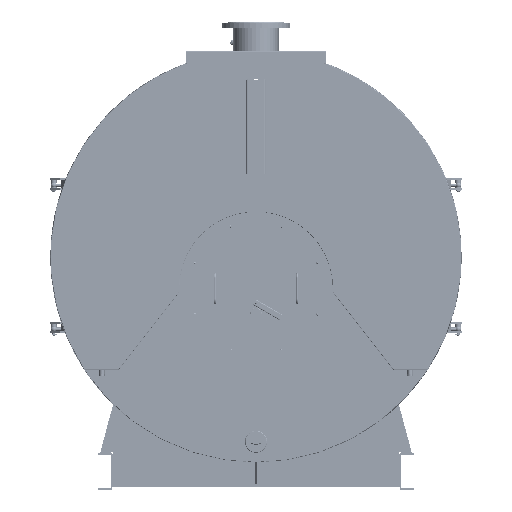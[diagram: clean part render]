
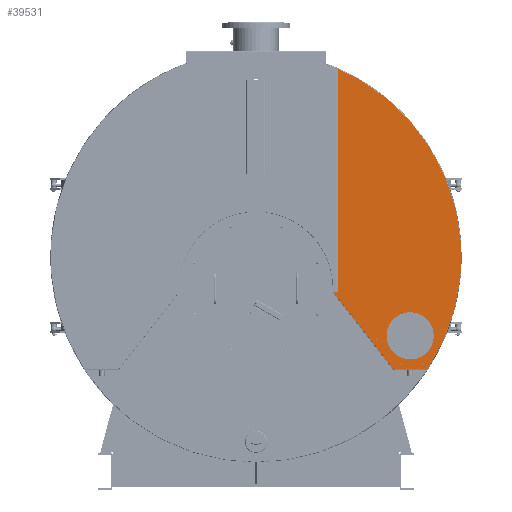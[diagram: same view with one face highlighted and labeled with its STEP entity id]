
A CAD part, left-side view. The second image highlights one B-rep face of the part: STEP entity #39531.
In plain terms, the highlighted planar face has unit normal (-1, 0, 0).
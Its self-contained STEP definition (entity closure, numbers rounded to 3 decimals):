
#39531=ADVANCED_FACE('',(#115013,#115015,#115017,#115019,#115021,#115023,#115025,
#115027,#115029,#115031,#115033,#115035,#115037,#115039,#115041,#115043,#115045),
#115047,.F.);
#115013=FACE_BOUND('',#115014,.T.);
#115014=EDGE_LOOP('',(#134675,#134676,#134677,#134678,#134679));
#115015=FACE_BOUND('',#115016,.T.);
#115016=EDGE_LOOP('',(#134680));
#115017=FACE_BOUND('',#115018,.T.);
#115018=EDGE_LOOP('',(#134681));
#115019=FACE_BOUND('',#115020,.T.);
#115020=EDGE_LOOP('',(#134682));
#115021=FACE_BOUND('',#115022,.T.);
#115022=EDGE_LOOP('',(#134683));
#115023=FACE_BOUND('',#115024,.T.);
#115024=EDGE_LOOP('',(#134684));
#115025=FACE_BOUND('',#115026,.T.);
#115026=EDGE_LOOP('',(#134685));
#115027=FACE_BOUND('',#115028,.T.);
#115028=EDGE_LOOP('',(#134686));
#115029=FACE_BOUND('',#115030,.T.);
#115030=EDGE_LOOP('',(#134687));
#115031=FACE_BOUND('',#115032,.T.);
#115032=EDGE_LOOP('',(#134688));
#115033=FACE_BOUND('',#115034,.T.);
#115034=EDGE_LOOP('',(#134689));
#115035=FACE_BOUND('',#115036,.T.);
#115036=EDGE_LOOP('',(#134690));
#115037=FACE_BOUND('',#115038,.T.);
#115038=EDGE_LOOP('',(#134691));
#115039=FACE_BOUND('',#115040,.T.);
#115040=EDGE_LOOP('',(#134692));
#115041=FACE_BOUND('',#115042,.T.);
#115042=EDGE_LOOP('',(#134693));
#115043=FACE_BOUND('',#115044,.T.);
#115044=EDGE_LOOP('',(#134694));
#115045=FACE_BOUND('',#115046,.T.);
#115046=EDGE_LOOP('',(#134695));
#115047=PLANE('',#115048);
#115048=AXIS2_PLACEMENT_3D('',#115049,#115050,#115051);
#115049=CARTESIAN_POINT('',(-4555.55,0.,365.));
#115050=DIRECTION('',(1.,0.,0.));
#115051=DIRECTION('',(0.,1.,0.));
#134675=ORIENTED_EDGE('',*,*,#144233,.T.);
#134676=ORIENTED_EDGE('',*,*,#144234,.T.);
#134677=ORIENTED_EDGE('',*,*,#144235,.F.);
#134678=ORIENTED_EDGE('',*,*,#144236,.F.);
#134679=ORIENTED_EDGE('',*,*,#144237,.F.);
#134680=ORIENTED_EDGE('',*,*,#144238,.T.);
#134681=ORIENTED_EDGE('',*,*,#144239,.T.);
#134682=ORIENTED_EDGE('',*,*,#144240,.T.);
#134683=ORIENTED_EDGE('',*,*,#144241,.T.);
#134684=ORIENTED_EDGE('',*,*,#144242,.T.);
#134685=ORIENTED_EDGE('',*,*,#144243,.T.);
#134686=ORIENTED_EDGE('',*,*,#144244,.T.);
#134687=ORIENTED_EDGE('',*,*,#144245,.T.);
#134688=ORIENTED_EDGE('',*,*,#144246,.T.);
#134689=ORIENTED_EDGE('',*,*,#144247,.T.);
#134690=ORIENTED_EDGE('',*,*,#144248,.T.);
#134691=ORIENTED_EDGE('',*,*,#144249,.T.);
#134692=ORIENTED_EDGE('',*,*,#144250,.T.);
#134693=ORIENTED_EDGE('',*,*,#144251,.T.);
#134694=ORIENTED_EDGE('',*,*,#144252,.T.);
#134695=ORIENTED_EDGE('',*,*,#144253,.T.);
#144233=EDGE_CURVE('',#159248,#159249,#159250,.T.);
#144234=EDGE_CURVE('',#159249,#159251,#159252,.T.);
#144235=EDGE_CURVE('',#159253,#159251,#159254,.T.);
#144236=EDGE_CURVE('',#159255,#159253,#159256,.T.);
#144237=EDGE_CURVE('',#159248,#159255,#159257,.T.);
#144238=EDGE_CURVE('',#159258,#159258,#159259,.T.);
#144239=EDGE_CURVE('',#159260,#159260,#159261,.T.);
#144240=EDGE_CURVE('',#159262,#159262,#159263,.T.);
#144241=EDGE_CURVE('',#159264,#159264,#159265,.T.);
#144242=EDGE_CURVE('',#159266,#159266,#159267,.T.);
#144243=EDGE_CURVE('',#159268,#159268,#159269,.T.);
#144244=EDGE_CURVE('',#159270,#159270,#159271,.T.);
#144245=EDGE_CURVE('',#159272,#159272,#159273,.T.);
#144246=EDGE_CURVE('',#159274,#159274,#159275,.T.);
#144247=EDGE_CURVE('',#159276,#159276,#159277,.T.);
#144248=EDGE_CURVE('',#159278,#159278,#159279,.T.);
#144249=EDGE_CURVE('',#159280,#159280,#159281,.T.);
#144250=EDGE_CURVE('',#159282,#159282,#159283,.T.);
#144251=EDGE_CURVE('',#159284,#159284,#159285,.T.);
#144252=EDGE_CURVE('',#159286,#159286,#159287,.T.);
#144253=EDGE_CURVE('',#159288,#159288,#159289,.T.);
#159248=VERTEX_POINT('',#254854);
#159249=VERTEX_POINT('',#254855);
#159250=CIRCLE('',#254856,999.);
#159251=VERTEX_POINT('',#254860);
#159252=LINE('',#254861,#254862);
#159253=VERTEX_POINT('',#254864);
#159254=CIRCLE('',#254865,375.55);
#159255=VERTEX_POINT('',#254869);
#159256=LINE('',#254870,#254871);
#159257=LINE('',#254873,#254874);
#159258=VERTEX_POINT('',#254876);
#159259=CIRCLE('',#254877,2.05);
#159260=VERTEX_POINT('',#254881);
#159261=CIRCLE('',#254882,2.05);
#159262=VERTEX_POINT('',#254886);
#159263=CIRCLE('',#254887,2.05);
#159264=VERTEX_POINT('',#254891);
#159265=CIRCLE('',#254892,2.05);
#159266=VERTEX_POINT('',#254896);
#159267=CIRCLE('',#254897,2.05);
#159268=VERTEX_POINT('',#254901);
#159269=CIRCLE('',#254902,2.05);
#159270=VERTEX_POINT('',#254906);
#159271=CIRCLE('',#254907,2.05);
#159272=VERTEX_POINT('',#254911);
#159273=CIRCLE('',#254912,2.05);
#159274=VERTEX_POINT('',#254916);
#159275=CIRCLE('',#254917,2.05);
#159276=VERTEX_POINT('',#254921);
#159277=CIRCLE('',#254922,2.05);
#159278=VERTEX_POINT('',#254926);
#159279=CIRCLE('',#254927,2.05);
#159280=VERTEX_POINT('',#254931);
#159281=CIRCLE('',#254932,5.);
#159282=VERTEX_POINT('',#254936);
#159283=CIRCLE('',#254937,5.);
#159284=VERTEX_POINT('',#254941);
#159285=CIRCLE('',#254942,5.);
#159286=VERTEX_POINT('',#254946);
#159287=CIRCLE('',#254947,5.);
#159288=VERTEX_POINT('',#254951);
#159289=CIRCLE('',#254952,90.);
#254854=CARTESIAN_POINT('',(-4555.55,-834.987,-183.45));
#254855=CARTESIAN_POINT('',(-4555.55,-345.,1302.537));
#254856=AXIS2_PLACEMENT_3D('',#254857,#254858,#254859);
#254857=CARTESIAN_POINT('',(-4555.55,0.,365.));
#254858=DIRECTION('',(-1.,0.,0.));
#254859=DIRECTION('',(0.,-0.836,-0.549));
#254860=CARTESIAN_POINT('',(-4555.55,-345.,358.367));
#254861=CARTESIAN_POINT('',(-4555.55,-345.,1302.537));
#254862=VECTOR('',#254863,1.);
#254863=DIRECTION('',(0.,0.,-1.));
#254864=CARTESIAN_POINT('',(-4555.55,-375.194,193.65));
#254865=AXIS2_PLACEMENT_3D('',#254866,#254867,#254868);
#254866=CARTESIAN_POINT('',(-4555.55,0.,210.));
#254867=DIRECTION('',(-1.,0.,0.));
#254868=DIRECTION('',(0.,-0.999,-0.044));
#254869=CARTESIAN_POINT('',(-4555.55,-669.817,-183.45));
#254870=CARTESIAN_POINT('',(-4555.55,-669.817,-183.45));
#254871=VECTOR('',#254872,1.);
#254872=DIRECTION('',(0.,0.616,0.788));
#254873=CARTESIAN_POINT('',(-4555.55,-834.987,-183.45));
#254874=VECTOR('',#254875,1.);
#254875=DIRECTION('',(0.,1.,0.));
#254876=CARTESIAN_POINT('',(-4555.55,-367.95,595.));
#254877=AXIS2_PLACEMENT_3D('',#254878,#254879,#254880);
#254878=CARTESIAN_POINT('',(-4555.55,-370.,595.));
#254879=DIRECTION('',(1.,0.,0.));
#254880=DIRECTION('',(0.,1.,0.));
#254881=CARTESIAN_POINT('',(-4555.55,-367.95,775.));
#254882=AXIS2_PLACEMENT_3D('',#254883,#254884,#254885);
#254883=CARTESIAN_POINT('',(-4555.55,-370.,775.));
#254884=DIRECTION('',(1.,0.,0.));
#254885=DIRECTION('',(0.,1.,0.));
#254886=CARTESIAN_POINT('',(-4555.55,-422.859,169.));
#254887=AXIS2_PLACEMENT_3D('',#254888,#254889,#254890);
#254888=CARTESIAN_POINT('',(-4555.55,-424.909,169.));
#254889=DIRECTION('',(1.,0.,0.));
#254890=DIRECTION('',(0.,1.,0.));
#254891=CARTESIAN_POINT('',(-4555.55,-503.203,66.165));
#254892=AXIS2_PLACEMENT_3D('',#254893,#254894,#254895);
#254893=CARTESIAN_POINT('',(-4555.55,-505.253,66.165));
#254894=DIRECTION('',(1.,0.,0.));
#254895=DIRECTION('',(0.,1.,0.));
#254896=CARTESIAN_POINT('',(-4555.55,-367.95,415.));
#254897=AXIS2_PLACEMENT_3D('',#254898,#254899,#254900);
#254898=CARTESIAN_POINT('',(-4555.55,-370.,415.));
#254899=DIRECTION('',(1.,0.,0.));
#254900=DIRECTION('',(0.,1.,0.));
#254901=CARTESIAN_POINT('',(-4555.55,-367.95,955.));
#254902=AXIS2_PLACEMENT_3D('',#254903,#254904,#254905);
#254903=CARTESIAN_POINT('',(-4555.55,-370.,955.));
#254904=DIRECTION('',(1.,0.,0.));
#254905=DIRECTION('',(0.,1.,0.));
#254906=CARTESIAN_POINT('',(-4555.55,-367.95,1135.));
#254907=AXIS2_PLACEMENT_3D('',#254908,#254909,#254910);
#254908=CARTESIAN_POINT('',(-4555.55,-370.,1135.));
#254909=DIRECTION('',(1.,0.,0.));
#254910=DIRECTION('',(0.,1.,0.));
#254911=CARTESIAN_POINT('',(-4555.55,-583.547,-36.671));
#254912=AXIS2_PLACEMENT_3D('',#254913,#254914,#254915);
#254913=CARTESIAN_POINT('',(-4555.55,-585.597,-36.671));
#254914=DIRECTION('',(1.,0.,0.));
#254915=DIRECTION('',(0.,1.,0.));
#254916=CARTESIAN_POINT('',(-4555.55,-664.081,-139.75));
#254917=AXIS2_PLACEMENT_3D('',#254918,#254919,#254920);
#254918=CARTESIAN_POINT('',(-4555.55,-666.131,-139.75));
#254919=DIRECTION('',(1.,0.,0.));
#254920=DIRECTION('',(0.,1.,0.));
#254921=CARTESIAN_POINT('',(-4555.55,-704.472,-159.45));
#254922=AXIS2_PLACEMENT_3D('',#254923,#254924,#254925);
#254923=CARTESIAN_POINT('',(-4555.55,-706.522,-159.45));
#254924=DIRECTION('',(1.,0.,0.));
#254925=DIRECTION('',(0.,1.,0.));
#254926=CARTESIAN_POINT('',(-4555.55,-807.937,-159.45));
#254927=AXIS2_PLACEMENT_3D('',#254928,#254929,#254930);
#254928=CARTESIAN_POINT('',(-4555.55,-809.987,-159.45));
#254929=DIRECTION('',(1.,0.,0.));
#254930=DIRECTION('',(0.,1.,0.));
#254931=CARTESIAN_POINT('',(-4555.55,-745.,-120.));
#254932=AXIS2_PLACEMENT_3D('',#254933,#254934,#254935);
#254933=CARTESIAN_POINT('',(-4555.55,-750.,-120.));
#254934=DIRECTION('',(1.,0.,0.));
#254935=DIRECTION('',(0.,1.,0.));
#254936=CARTESIAN_POINT('',(-4555.55,-645.,-20.));
#254937=AXIS2_PLACEMENT_3D('',#254938,#254939,#254940);
#254938=CARTESIAN_POINT('',(-4555.55,-650.,-20.));
#254939=DIRECTION('',(1.,0.,0.));
#254940=DIRECTION('',(0.,1.,0.));
#254941=CARTESIAN_POINT('',(-4555.55,-845.,-20.));
#254942=AXIS2_PLACEMENT_3D('',#254943,#254944,#254945);
#254943=CARTESIAN_POINT('',(-4555.55,-850.,-20.));
#254944=DIRECTION('',(1.,0.,0.));
#254945=DIRECTION('',(0.,1.,0.));
#254946=CARTESIAN_POINT('',(-4555.55,-745.,80.));
#254947=AXIS2_PLACEMENT_3D('',#254948,#254949,#254950);
#254948=CARTESIAN_POINT('',(-4555.55,-750.,80.));
#254949=DIRECTION('',(1.,0.,0.));
#254950=DIRECTION('',(0.,1.,0.));
#254951=CARTESIAN_POINT('',(-4555.55,-660.,-20.));
#254952=AXIS2_PLACEMENT_3D('',#254953,#254954,#254955);
#254953=CARTESIAN_POINT('',(-4555.55,-750.,-20.));
#254954=DIRECTION('',(1.,0.,0.));
#254955=DIRECTION('',(0.,1.,0.));
